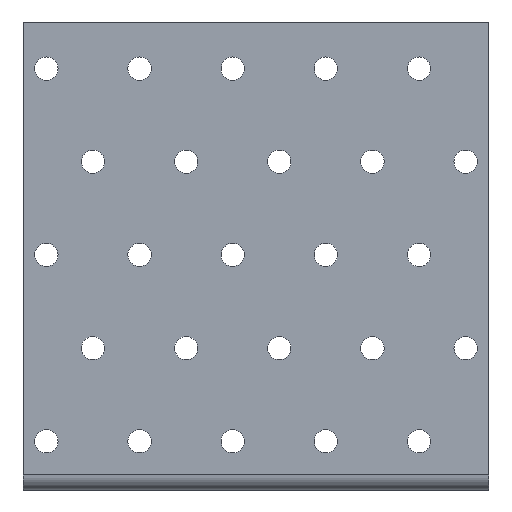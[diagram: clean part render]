
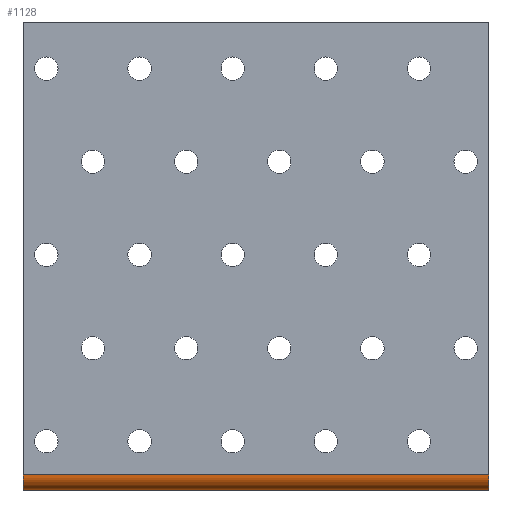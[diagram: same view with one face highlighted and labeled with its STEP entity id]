
A CAD part, front view. The second image highlights one B-rep face of the part: STEP entity #1128.
In plain terms, the highlighted cylindrical face has radius 3.237 mm (diameter 6.473 mm), a partial arc.
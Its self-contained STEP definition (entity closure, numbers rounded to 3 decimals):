
#38 = FACE_OUTER_BOUND ( 'NONE', #2546, .T. ) ;
#102 = DIRECTION ( 'NONE',  ( 1., 0., 0. ) ) ;
#148 = CARTESIAN_POINT ( 'NONE',  ( 100., 0.737, -97.225 ) ) ;
#296 = AXIS2_PLACEMENT_3D ( 'NONE', #148, #1118, #1093 ) ;
#301 = AXIS2_PLACEMENT_3D ( 'NONE', #3536, #2589, #3503 ) ;
#356 = VERTEX_POINT ( 'NONE', #2713 ) ;
#392 = ORIENTED_EDGE ( 'NONE', *, *, #3002, .T. ) ;
#493 = VERTEX_POINT ( 'NONE', #3396 ) ;
#544 = CYLINDRICAL_SURFACE ( 'NONE', #3150, 3.237 ) ;
#628 = VECTOR ( 'NONE', #102, 1000. ) ;
#1044 = CARTESIAN_POINT ( 'NONE',  ( 100., -2.5, -97.225 ) ) ;
#1093 = DIRECTION ( 'NONE',  ( 0., 0., -1. ) ) ;
#1118 = DIRECTION ( 'NONE',  ( -1., 0., 0. ) ) ;
#1128 = ADVANCED_FACE ( 'NONE', ( #38 ), #544, .T. ) ;
#1330 = ORIENTED_EDGE ( 'NONE', *, *, #1661, .T. ) ;
#1494 = CIRCLE ( 'NONE', #296, 3.237 ) ;
#1534 = CIRCLE ( 'NONE', #301, 3.237 ) ;
#1539 = CARTESIAN_POINT ( 'NONE',  ( 0., 0.737, -100.462 ) ) ;
#1605 = CARTESIAN_POINT ( 'NONE',  ( 0., 0.737, -100.462 ) ) ;
#1661 = EDGE_CURVE ( 'NONE', #356, #2610, #1494, .T. ) ;
#1876 = VECTOR ( 'NONE', #2823, 1000. ) ;
#2388 = ORIENTED_EDGE ( 'NONE', *, *, #2573, .F. ) ;
#2546 = EDGE_LOOP ( 'NONE', ( #392, #1330, #2388, #3457 ) ) ;
#2573 = EDGE_CURVE ( 'NONE', #493, #2610, #3764, .T. ) ;
#2589 = DIRECTION ( 'NONE',  ( 1., 0., 0. ) ) ;
#2610 = VERTEX_POINT ( 'NONE', #1044 ) ;
#2638 = CARTESIAN_POINT ( 'NONE',  ( 0., -2.5, -97.225 ) ) ;
#2688 = DIRECTION ( 'NONE',  ( 1., 0., 0. ) ) ;
#2713 = CARTESIAN_POINT ( 'NONE',  ( 100., 0.737, -100.462 ) ) ;
#2743 = CARTESIAN_POINT ( 'NONE',  ( -50.043, 0.737, -97.225 ) ) ;
#2823 = DIRECTION ( 'NONE',  ( 1., 0., 0. ) ) ;
#3002 = EDGE_CURVE ( 'NONE', #4102, #356, #3061, .T. ) ;
#3061 = LINE ( 'NONE', #1605, #1876 ) ;
#3150 = AXIS2_PLACEMENT_3D ( 'NONE', #2743, #2688, #3328 ) ;
#3328 = DIRECTION ( 'NONE',  ( 0., 0., -1. ) ) ;
#3396 = CARTESIAN_POINT ( 'NONE',  ( 0., -2.5, -97.225 ) ) ;
#3457 = ORIENTED_EDGE ( 'NONE', *, *, #3646, .T. ) ;
#3503 = DIRECTION ( 'NONE',  ( 0., -1., 0. ) ) ;
#3536 = CARTESIAN_POINT ( 'NONE',  ( 0., 0.737, -97.225 ) ) ;
#3646 = EDGE_CURVE ( 'NONE', #493, #4102, #1534, .T. ) ;
#3764 = LINE ( 'NONE', #2638, #628 ) ;
#4102 = VERTEX_POINT ( 'NONE', #1539 ) ;
